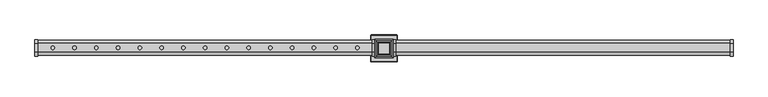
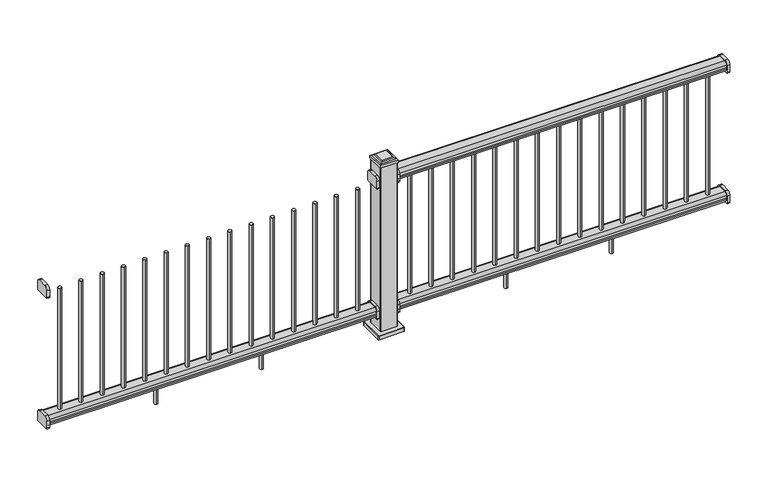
"""IFC4 building model written with IfcOpenShell, lengths in millimetres: railing geometry, NewTechWood - Brazilian Ipe."""

from ifc_helpers import new_model, si_unit, point, frame, frame_2d, origin, place, context, project, spatial, polyline, circle_curve, ellipse_curve, trimmed, segment, composite_curve, outline, extrude, faceted_brep, source, transform, mapped, element, save
from ifc_brep_helpers import plane_surface, cylinder_surface, revolved_surface, advanced_brep


def railing_b230028f(model_context):
    return source(origin(), model_context, "Body", "SolidModel", [
        extrude(outline(composite_curve([segment(polyline([(11496.7392028, 160.1), (11546.1692028, 160.1)]), True, "CONTINUOUS"), segment(trimmed(circle_curve(frame_2d((11546.1692028, 140.42)), 19.68), [point((11546.1692028, 160.1))], [point((11565.8492028, 140.42))], False, "CARTESIAN"), True, "CONTINUOUS"), segment(polyline([(11565.8492028, 140.42), (11565.8492028, 98.95)]), True, "CONTINUOUS"), segment(trimmed(circle_curve(frame_2d((11562.2992028, 98.95)), 3.55), [point((11565.8492028, 98.95))], [point((11562.2992028, 95.4))], False, "CARTESIAN"), True, "CONTINUOUS"), segment(polyline([(11562.2992028, 95.4), (11480.6092028, 95.4)]), True, "CONTINUOUS"), segment(trimmed(circle_curve(frame_2d((11480.6092028, 98.95)), 3.55), [point((11480.6092028, 95.4))], [point((11477.0592028, 98.95))], False, "CARTESIAN"), True, "CONTINUOUS"), segment(polyline([(11477.0592028, 98.95), (11477.0592028, 140.42)]), True, "CONTINUOUS"), segment(trimmed(circle_curve(frame_2d((11496.7392028, 140.42)), 19.68), [point((11477.0592028, 140.42))], [point((11496.7392028, 160.1))], False, "CARTESIAN"), True, "CONTINUOUS")], self_intersect=False)), frame((31626.7458255, 0.0, 0.0), z_axis=(1.0, 0.0, 0.0), x_axis=(0.0, 1.0, 0.0)), (0.0, 0.0, 1.0), 15.0),
        extrude(outline(composite_curve([segment(polyline([(11496.7392028, 160.1), (11546.1692028, 160.1)]), True, "CONTINUOUS"), segment(trimmed(circle_curve(frame_2d((11546.1692028, 140.42)), 19.68), [point((11546.1692028, 160.1))], [point((11565.8492028, 140.42))], False, "CARTESIAN"), True, "CONTINUOUS"), segment(polyline([(11565.8492028, 140.42), (11565.8492028, 98.95)]), True, "CONTINUOUS"), segment(trimmed(circle_curve(frame_2d((11562.2992028, 98.95)), 3.55), [point((11565.8492028, 98.95))], [point((11562.2992028, 95.4))], False, "CARTESIAN"), True, "CONTINUOUS"), segment(polyline([(11562.2992028, 95.4), (11480.6092028, 95.4)]), True, "CONTINUOUS"), segment(trimmed(circle_curve(frame_2d((11480.6092028, 98.95)), 3.55), [point((11480.6092028, 95.4))], [point((11477.0592028, 98.95))], False, "CARTESIAN"), True, "CONTINUOUS"), segment(polyline([(11477.0592028, 98.95), (11477.0592028, 140.42)]), True, "CONTINUOUS"), segment(trimmed(circle_curve(frame_2d((11496.7392028, 140.42)), 19.68), [point((11477.0592028, 140.42))], [point((11496.7392028, 160.1))], False, "CARTESIAN"), True, "CONTINUOUS")], self_intersect=False)), frame((33440.7458255, 0.0, 0.0), z_axis=(1.0, 0.0, 0.0), x_axis=(0.0, 1.0, 0.0)), (0.0, 0.0, 1.0), 15.0),
        extrude(outline(composite_curve([segment(trimmed(circle_curve(frame_2d((11546.1692028, 899.42)), 19.68), [point((11546.1692028, 919.1))], [point((11565.8492028, 899.42))], False, "CARTESIAN"), True, "CONTINUOUS"), segment(polyline([(11565.8492028, 899.42), (11565.8492028, 857.95)]), True, "CONTINUOUS"), segment(trimmed(circle_curve(frame_2d((11562.2992028, 857.95)), 3.55), [point((11565.8492028, 857.95))], [point((11562.2992028, 854.4))], False, "CARTESIAN"), True, "CONTINUOUS"), segment(polyline([(11562.2992028, 854.4), (11480.6092028, 854.4)]), True, "CONTINUOUS"), segment(trimmed(circle_curve(frame_2d((11480.6092028, 857.95)), 3.55), [point((11480.6092028, 854.4))], [point((11477.0592028, 857.95))], False, "CARTESIAN"), True, "CONTINUOUS"), segment(polyline([(11477.0592028, 857.95), (11477.0592028, 899.42)]), True, "CONTINUOUS"), segment(trimmed(circle_curve(frame_2d((11496.7392028, 899.42)), 19.68), [point((11477.0592028, 899.42))], [point((11496.7392028, 919.1))], False, "CARTESIAN"), True, "CONTINUOUS"), segment(polyline([(11496.7392028, 919.1), (11546.1692028, 919.1)]), True, "CONTINUOUS")], self_intersect=False)), frame((31626.7458255, 0.0, 0.0), z_axis=(1.0, 0.0, 0.0), x_axis=(0.0, 1.0, 0.0)), (0.0, 0.0, 1.0), 15.0),
        extrude(outline(composite_curve([segment(trimmed(circle_curve(frame_2d((11546.1692028, 899.42)), 19.68), [point((11546.1692028, 919.1))], [point((11565.8492028, 899.42))], False, "CARTESIAN"), True, "CONTINUOUS"), segment(polyline([(11565.8492028, 899.42), (11565.8492028, 857.95)]), True, "CONTINUOUS"), segment(trimmed(circle_curve(frame_2d((11562.2992028, 857.95)), 3.55), [point((11565.8492028, 857.95))], [point((11562.2992028, 854.4))], False, "CARTESIAN"), True, "CONTINUOUS"), segment(polyline([(11562.2992028, 854.4), (11480.6092028, 854.4)]), True, "CONTINUOUS"), segment(trimmed(circle_curve(frame_2d((11480.6092028, 857.95)), 3.55), [point((11480.6092028, 854.4))], [point((11477.0592028, 857.95))], False, "CARTESIAN"), True, "CONTINUOUS"), segment(polyline([(11477.0592028, 857.95), (11477.0592028, 899.42)]), True, "CONTINUOUS"), segment(trimmed(circle_curve(frame_2d((11496.7392028, 899.42)), 19.68), [point((11477.0592028, 899.42))], [point((11496.7392028, 919.1))], False, "CARTESIAN"), True, "CONTINUOUS"), segment(polyline([(11496.7392028, 919.1), (11546.1692028, 919.1)]), True, "CONTINUOUS")], self_intersect=False)), frame((33440.7458255, 0.0, 0.0), z_axis=(1.0, 0.0, 0.0), x_axis=(0.0, 1.0, 0.0)), (0.0, 0.0, 1.0), 15.0),
        advanced_brep(
        [(32251.745858, 11511.9542028, 127.5), (32251.745858, 11530.9542028, 127.5), (32242.245858, 11521.4542028, 127.5), (32251.745858, 11511.9542028, -0.0239603), (32251.745858, 11530.9542028, -0.0239603), (32242.245858, 11521.4542028, -0.0239603)],
        [
            (0, 1, circle_curve(frame((32251.745858, 11521.4542028, 127.5), z_axis=(0.0, 0.0, 1.0), x_axis=(0.0, 1.0, 0.0)), 9.5)),
            (1, 2, circle_curve(frame((32251.745858, 11521.4542028, 127.5), z_axis=(0.0, 0.0, 1.0), x_axis=(0.0, 1.0, 0.0)), 9.5)),
            (2, 0, circle_curve(frame((32251.745858, 11521.4542028, 127.5), z_axis=(0.0, 0.0, 1.0), x_axis=(0.0, 1.0, 0.0)), 9.5)),
            (0, 3),
            (3, 4, circle_curve(frame((32251.745858, 11521.4542028, -0.0239603), z_axis=(0.0, 0.0, 1.0), x_axis=(0.0, 1.0, 0.0)), 9.5)),
            (4, 1),
            (4, 5, circle_curve(frame((32251.745858, 11521.4542028, -0.0239603), z_axis=(0.0, 0.0, 1.0), x_axis=(0.0, 1.0, 0.0)), 9.5)),
            (5, 3, circle_curve(frame((32251.745858, 11521.4542028, -0.0239603), z_axis=(0.0, 0.0, 1.0), x_axis=(0.0, 1.0, 0.0)), 9.5)),
        ],
        [
            plane_surface(frame((32840.2457931, 11671.4542028, 127.5), z_axis=(0.0, 0.0, 1.0), x_axis=(0.0, -1.0, 0.0))),
            cylinder_surface(frame((32251.745858, 11521.4542028, -0.3192207), z_axis=(0.0, 0.0, 1.0), x_axis=(0.0, 1.0, 0.0)), 9.5),
            plane_surface(frame((32242.245858, 11671.4542028, -0.0239603), z_axis=(0.0, 0.0, -1.0), x_axis=(0.0, -1.0, 0.0))),
        ],
        [
            (0, [[1, 2, 3]]),
            (1, [[4, 5, 6, -1]]),
            (1, [[-4, -3, -2, -6, 7, 8]]),
            (2, [[-5, -8, -7]]),
        ],
    ),
        advanced_brep(
        [(32830.7457931, 11511.9542028, 127.5), (32840.2457931, 11521.4542028, 127.5), (32830.7457931, 11530.9542028, 127.5), (32830.7457931, 11511.9542028, -0.0102232), (32840.2457931, 11521.4542028, -0.0102232), (32830.7457931, 11530.9542028, -0.0102232)],
        [
            (0, 1, circle_curve(frame((32830.7457931, 11521.4542028, 127.5), z_axis=(0.0, 0.0, 1.0), x_axis=(0.0, 1.0, 0.0)), 9.5)),
            (1, 2, circle_curve(frame((32830.7457931, 11521.4542028, 127.5), z_axis=(0.0, 0.0, 1.0), x_axis=(0.0, 1.0, 0.0)), 9.5)),
            (2, 0, circle_curve(frame((32830.7457931, 11521.4542028, 127.5), z_axis=(0.0, 0.0, 1.0), x_axis=(0.0, 1.0, 0.0)), 9.5)),
            (0, 3),
            (3, 4, circle_curve(frame((32830.7457931, 11521.4542028, -0.0102232), z_axis=(0.0, 0.0, 1.0), x_axis=(0.0, 1.0, 0.0)), 9.5)),
            (4, 5, circle_curve(frame((32830.7457931, 11521.4542028, -0.0102232), z_axis=(0.0, 0.0, 1.0), x_axis=(0.0, 1.0, 0.0)), 9.5)),
            (5, 2),
            (5, 3, circle_curve(frame((32830.7457931, 11521.4542028, -0.0102232), z_axis=(0.0, 0.0, 1.0), x_axis=(0.0, 1.0, 0.0)), 9.5)),
        ],
        [
            plane_surface(frame((32840.2457931, 11671.4542028, 127.5), z_axis=(0.0, 0.0, 1.0), x_axis=(0.0, -1.0, 0.0))),
            cylinder_surface(frame((32830.7457931, 11521.4542028, 0.0), z_axis=(0.0, 0.0, 1.0), x_axis=(0.0, 1.0, 0.0)), 9.5),
            plane_surface(frame((32820.7457931, 11671.4542028, -0.0102232), z_axis=(0.0, 0.0, -1.0), x_axis=(0.0, -1.0, 0.0))),
        ],
        [
            (0, [[1, 2, 3]]),
            (1, [[4, 5, 6, 7, -2, -1]]),
            (1, [[-4, -3, -7, 8]]),
            (2, [[-5, -8, -6]]),
        ],
    ),
        extrude(outline(composite_curve([segment(trimmed(circle_curve(frame_2d((32190.5029684, 11521.4542028)), 9.6), [point((32190.5029684, 11531.0542028))], [point((32190.5029684, 11511.8542028))], False, "CARTESIAN"), True, "CONTINUOUS"), segment(trimmed(circle_curve(frame_2d((32190.5029684, 11521.4542028)), 9.6), [point((32190.5029684, 11511.8542028))], [point((32190.5029684, 11531.0542028))], False, "CARTESIAN"), True, "CONTINUOUS")], self_intersect=False)), frame((0.0, 0.0, 155.0), z_axis=(0.0, 0.0, 1.0), x_axis=(1.0, 0.0, 0.0)), (0.0, 0.0, 1.0), 704.1),
        extrude(outline(composite_curve([segment(trimmed(circle_curve(frame_2d((32307.4172541, 11521.4542028)), 9.6), [point((32307.4172541, 11531.0542028))], [point((32307.4172541, 11511.8542028))], False, "CARTESIAN"), True, "CONTINUOUS"), segment(trimmed(circle_curve(frame_2d((32307.4172541, 11521.4542028)), 9.6), [point((32307.4172541, 11511.8542028))], [point((32307.4172541, 11531.0542028))], False, "CARTESIAN"), True, "CONTINUOUS")], self_intersect=False)), frame((0.0, 0.0, 155.0), z_axis=(0.0, 0.0, 1.0), x_axis=(1.0, 0.0, 0.0)), (0.0, 0.0, 1.0), 704.1),
        extrude(outline(composite_curve([segment(trimmed(circle_curve(frame_2d((32424.3315398, 11521.4542028)), 9.6), [point((32424.3315398, 11531.0542028))], [point((32424.3315398, 11511.8542028))], False, "CARTESIAN"), True, "CONTINUOUS"), segment(trimmed(circle_curve(frame_2d((32424.3315398, 11521.4542028)), 9.6), [point((32424.3315398, 11511.8542028))], [point((32424.3315398, 11531.0542028))], False, "CARTESIAN"), True, "CONTINUOUS")], self_intersect=False)), frame((0.0, 0.0, 155.0), z_axis=(0.0, 0.0, 1.0), x_axis=(1.0, 0.0, 0.0)), (0.0, 0.0, 1.0), 704.1),
        extrude(outline(composite_curve([segment(trimmed(circle_curve(frame_2d((32541.2458255, 11521.4542028)), 9.6), [point((32541.2458255, 11531.0542028))], [point((32541.2458255, 11511.8542028))], False, "CARTESIAN"), True, "CONTINUOUS"), segment(trimmed(circle_curve(frame_2d((32541.2458255, 11521.4542028)), 9.6), [point((32541.2458255, 11511.8542028))], [point((32541.2458255, 11531.0542028))], False, "CARTESIAN"), True, "CONTINUOUS")], self_intersect=False)), frame((0.0, 0.0, 155.0), z_axis=(0.0, 0.0, 1.0), x_axis=(1.0, 0.0, 0.0)), (0.0, 0.0, 1.0), 704.1),
        extrude(outline(composite_curve([segment(trimmed(circle_curve(frame_2d((32658.1601112, 11521.4542028)), 9.6), [point((32658.1601112, 11531.0542028))], [point((32658.1601112, 11511.8542028))], False, "CARTESIAN"), True, "CONTINUOUS"), segment(trimmed(circle_curve(frame_2d((32658.1601112, 11521.4542028)), 9.6), [point((32658.1601112, 11511.8542028))], [point((32658.1601112, 11531.0542028))], False, "CARTESIAN"), True, "CONTINUOUS")], self_intersect=False)), frame((0.0, 0.0, 155.0), z_axis=(0.0, 0.0, 1.0), x_axis=(1.0, 0.0, 0.0)), (0.0, 0.0, 1.0), 704.1),
        extrude(outline(composite_curve([segment(trimmed(circle_curve(frame_2d((32775.0743969, 11521.4542028)), 9.6), [point((32775.0743969, 11531.0542028))], [point((32775.0743969, 11511.8542028))], False, "CARTESIAN"), True, "CONTINUOUS"), segment(trimmed(circle_curve(frame_2d((32775.0743969, 11521.4542028)), 9.6), [point((32775.0743969, 11511.8542028))], [point((32775.0743969, 11531.0542028))], False, "CARTESIAN"), True, "CONTINUOUS")], self_intersect=False)), frame((0.0, 0.0, 155.0), z_axis=(0.0, 0.0, 1.0), x_axis=(1.0, 0.0, 0.0)), (0.0, 0.0, 1.0), 704.1),
        extrude(outline(composite_curve([segment(trimmed(circle_curve(frame_2d((32891.9886827, 11521.4542028)), 9.6), [point((32891.9886827, 11531.0542028))], [point((32891.9886827, 11511.8542028))], False, "CARTESIAN"), True, "CONTINUOUS"), segment(trimmed(circle_curve(frame_2d((32891.9886827, 11521.4542028)), 9.6), [point((32891.9886827, 11511.8542028))], [point((32891.9886827, 11531.0542028))], False, "CARTESIAN"), True, "CONTINUOUS")], self_intersect=False)), frame((0.0, 0.0, 155.0), z_axis=(0.0, 0.0, 1.0), x_axis=(1.0, 0.0, 0.0)), (0.0, 0.0, 1.0), 704.1),
        extrude(outline(composite_curve([segment(trimmed(circle_curve(frame_2d((31722.8458255, 11521.4542028)), 9.6), [point((31722.8458255, 11531.0542028))], [point((31722.8458255, 11511.8542028))], False, "CARTESIAN"), True, "CONTINUOUS"), segment(trimmed(circle_curve(frame_2d((31722.8458255, 11521.4542028)), 9.6), [point((31722.8458255, 11511.8542028))], [point((31722.8458255, 11531.0542028))], False, "CARTESIAN"), True, "CONTINUOUS")], self_intersect=False)), frame((0.0, 0.0, 155.0), z_axis=(0.0, 0.0, 1.0), x_axis=(1.0, 0.0, 0.0)), (0.0, 0.0, 1.0), 704.1),
        extrude(outline(composite_curve([segment(trimmed(circle_curve(frame_2d((31839.7601112, 11521.4542028)), 9.6), [point((31839.7601112, 11531.0542028))], [point((31839.7601112, 11511.8542028))], False, "CARTESIAN"), True, "CONTINUOUS"), segment(trimmed(circle_curve(frame_2d((31839.7601112, 11521.4542028)), 9.6), [point((31839.7601112, 11511.8542028))], [point((31839.7601112, 11531.0542028))], False, "CARTESIAN"), True, "CONTINUOUS")], self_intersect=False)), frame((0.0, 0.0, 155.0), z_axis=(0.0, 0.0, 1.0), x_axis=(1.0, 0.0, 0.0)), (0.0, 0.0, 1.0), 704.1),
        extrude(outline(composite_curve([segment(trimmed(circle_curve(frame_2d((31956.6743969, 11521.4542028)), 9.6), [point((31956.6743969, 11531.0542028))], [point((31956.6743969, 11511.8542028))], False, "CARTESIAN"), True, "CONTINUOUS"), segment(trimmed(circle_curve(frame_2d((31956.6743969, 11521.4542028)), 9.6), [point((31956.6743969, 11511.8542028))], [point((31956.6743969, 11531.0542028))], False, "CARTESIAN"), True, "CONTINUOUS")], self_intersect=False)), frame((0.0, 0.0, 155.0), z_axis=(0.0, 0.0, 1.0), x_axis=(1.0, 0.0, 0.0)), (0.0, 0.0, 1.0), 704.1),
        extrude(outline(composite_curve([segment(trimmed(circle_curve(frame_2d((32073.5886827, 11521.4542028)), 9.6), [point((32073.5886827, 11531.0542028))], [point((32073.5886827, 11511.8542028))], False, "CARTESIAN"), True, "CONTINUOUS"), segment(trimmed(circle_curve(frame_2d((32073.5886827, 11521.4542028)), 9.6), [point((32073.5886827, 11511.8542028))], [point((32073.5886827, 11531.0542028))], False, "CARTESIAN"), True, "CONTINUOUS")], self_intersect=False)), frame((0.0, 0.0, 155.0), z_axis=(0.0, 0.0, 1.0), x_axis=(1.0, 0.0, 0.0)), (0.0, 0.0, 1.0), 704.1),
        extrude(outline(composite_curve([segment(trimmed(circle_curve(frame_2d((33008.9029684, 11521.4542028)), 9.6), [point((33008.9029684, 11531.0542028))], [point((33008.9029684, 11511.8542028))], False, "CARTESIAN"), True, "CONTINUOUS"), segment(trimmed(circle_curve(frame_2d((33008.9029684, 11521.4542028)), 9.6), [point((33008.9029684, 11511.8542028))], [point((33008.9029684, 11531.0542028))], False, "CARTESIAN"), True, "CONTINUOUS")], self_intersect=False)), frame((0.0, 0.0, 155.0), z_axis=(0.0, 0.0, 1.0), x_axis=(1.0, 0.0, 0.0)), (0.0, 0.0, 1.0), 704.1),
        extrude(outline(composite_curve([segment(trimmed(circle_curve(frame_2d((33125.8172541, 11521.4542028)), 9.6), [point((33125.8172541, 11531.0542028))], [point((33125.8172541, 11511.8542028))], False, "CARTESIAN"), True, "CONTINUOUS"), segment(trimmed(circle_curve(frame_2d((33125.8172541, 11521.4542028)), 9.6), [point((33125.8172541, 11511.8542028))], [point((33125.8172541, 11531.0542028))], False, "CARTESIAN"), True, "CONTINUOUS")], self_intersect=False)), frame((0.0, 0.0, 155.0), z_axis=(0.0, 0.0, 1.0), x_axis=(1.0, 0.0, 0.0)), (0.0, 0.0, 1.0), 704.1),
        extrude(outline(composite_curve([segment(trimmed(circle_curve(frame_2d((33242.7315398, 11521.4542028)), 9.6), [point((33242.7315398, 11531.0542028))], [point((33242.7315398, 11511.8542028))], False, "CARTESIAN"), True, "CONTINUOUS"), segment(trimmed(circle_curve(frame_2d((33242.7315398, 11521.4542028)), 9.6), [point((33242.7315398, 11511.8542028))], [point((33242.7315398, 11531.0542028))], False, "CARTESIAN"), True, "CONTINUOUS")], self_intersect=False)), frame((0.0, 0.0, 155.0), z_axis=(0.0, 0.0, 1.0), x_axis=(1.0, 0.0, 0.0)), (0.0, 0.0, 1.0), 704.1),
        extrude(outline(composite_curve([segment(trimmed(circle_curve(frame_2d((33359.6458255, 11521.4542028)), 9.6), [point((33359.6458255, 11531.0542028))], [point((33359.6458255, 11511.8542028))], False, "CARTESIAN"), True, "CONTINUOUS"), segment(trimmed(circle_curve(frame_2d((33359.6458255, 11521.4542028)), 9.6), [point((33359.6458255, 11511.8542028))], [point((33359.6458255, 11531.0542028))], False, "CARTESIAN"), True, "CONTINUOUS")], self_intersect=False)), frame((0.0, 0.0, 155.0), z_axis=(0.0, 0.0, 1.0), x_axis=(1.0, 0.0, 0.0)), (0.0, 0.0, 1.0), 704.1),
        extrude(outline(composite_curve([segment(polyline([(11543.636591, 100.0161325), (11499.2718146, 100.0161325)]), True, "CONTINUOUS"), segment(trimmed(circle_curve(frame_2d((11499.2718146, 116.7552917)), 16.7391591), [point((11499.2718146, 100.0161325))], [point((11482.5326554, 116.7552917))], False, "CARTESIAN"), True, "CONTINUOUS"), segment(polyline([(11482.5326554, 116.7552917), (11482.5326554, 126.3278473)]), True, "CONTINUOUS"), segment(trimmed(circle_curve(frame_2d((11469.6196989, 132.6660673)), 14.3846265), [point((11482.5326554, 126.3278473))], [point((11482.0441367, 139.9152621))], True, "CARTESIAN"), True, "CONTINUOUS"), segment(trimmed(circle_curve(frame_2d((11497.612742, 139.9152621)), 15.5686053), [point((11482.0441367, 139.9152621))], [point((11497.612742, 155.4838675))], False, "CARTESIAN"), True, "CONTINUOUS"), segment(polyline([(11497.612742, 155.4838675), (11545.2956636, 155.4838675)]), True, "CONTINUOUS"), segment(trimmed(circle_curve(frame_2d((11545.2956636, 139.9152621)), 15.5686053), [point((11545.2956636, 155.4838675))], [point((11560.8642689, 139.9152621))], False, "CARTESIAN"), True, "CONTINUOUS"), segment(trimmed(circle_curve(frame_2d((11573.2887067, 132.6660673)), 14.3846265), [point((11560.8642689, 139.9152621))], [point((11560.3757501, 126.3278473))], True, "CARTESIAN"), True, "CONTINUOUS"), segment(polyline([(11560.3757501, 126.3278473), (11560.3757501, 116.7552917)]), True, "CONTINUOUS"), segment(trimmed(circle_curve(frame_2d((11543.636591, 116.7552917)), 16.7391591), [point((11560.3757501, 116.7552917))], [point((11543.636591, 100.0161325))], False, "CARTESIAN"), True, "CONTINUOUS")], self_intersect=False)), frame((31641.7458255, 0.0, 0.0), z_axis=(1.0, 0.0, 0.0), x_axis=(0.0, 1.0, 0.0)), (0.0, 0.0, 1.0), 1799.0),
        extrude(outline(composite_curve([segment(polyline([(11543.636591, 859.0161325), (11499.2718146, 859.0161325)]), True, "CONTINUOUS"), segment(trimmed(circle_curve(frame_2d((11499.2718146, 875.7552917)), 16.7391591), [point((11499.2718146, 859.0161325))], [point((11482.5326554, 875.7552917))], False, "CARTESIAN"), True, "CONTINUOUS"), segment(polyline([(11482.5326554, 875.7552917), (11482.5326554, 885.3278473)]), True, "CONTINUOUS"), segment(trimmed(circle_curve(frame_2d((11469.6196989, 891.6660673)), 14.3846265), [point((11482.5326554, 885.3278473))], [point((11482.0441367, 898.9152621))], True, "CARTESIAN"), True, "CONTINUOUS"), segment(trimmed(circle_curve(frame_2d((11497.612742, 898.9152621)), 15.5686053), [point((11482.0441367, 898.9152621))], [point((11497.612742, 914.4838675))], False, "CARTESIAN"), True, "CONTINUOUS"), segment(polyline([(11497.612742, 914.4838675), (11545.2956636, 914.4838675)]), True, "CONTINUOUS"), segment(trimmed(circle_curve(frame_2d((11545.2956636, 898.9152621)), 15.5686053), [point((11545.2956636, 914.4838675))], [point((11560.8642689, 898.9152621))], False, "CARTESIAN"), True, "CONTINUOUS"), segment(trimmed(circle_curve(frame_2d((11573.2887067, 891.6660673)), 14.3846265), [point((11560.8642689, 898.9152621))], [point((11560.3757501, 885.3278473))], True, "CARTESIAN"), True, "CONTINUOUS"), segment(polyline([(11560.3757501, 885.3278473), (11560.3757501, 875.7552917)]), True, "CONTINUOUS"), segment(trimmed(circle_curve(frame_2d((11543.636591, 875.7552917)), 16.7391591), [point((11560.3757501, 875.7552917))], [point((11543.636591, 859.0161325))], False, "CARTESIAN"), True, "CONTINUOUS")], self_intersect=False)), frame((31641.7458255, 0.0, 0.0), z_axis=(1.0, 0.0, 0.0), x_axis=(0.0, 1.0, 0.0)), (0.0, 0.0, 1.0), 1799.0),
        advanced_brep(
        [(31646.8584818, 11447.5944784, 22.5), (31650.0180491, 11450.7540458, 22.5), (31650.0180491, 11585.4340458, 22.5), (31646.8584818, 11588.5936132, 22.5), (31512.1784818, 11588.5936132, 22.5), (31509.0189144, 11585.4340458, 22.5), (31509.0189144, 11450.7540458, 22.5), (31512.1784818, 11447.5944784, 22.5), (31507.0184818, 11585.4340458, 0.0), (31512.1784818, 11590.5940458, 0.0), (31646.8584818, 11590.5940458, 0.0), (31652.0184818, 11585.4340458, 0.0), (31652.0184818, 11450.7540458, 0.0), (31646.8584818, 11445.5940458, 0.0), (31512.1784818, 11445.5940458, 0.0), (31507.0184818, 11450.7540458, 0.0), (31507.0184818, 11450.7540458, 20.4995674), (31507.0184818, 11585.4340458, 20.4995674), (31512.1784818, 11445.5940458, 20.499569), (31646.8584818, 11445.5940458, 20.499569), (31652.0184818, 11450.7540458, 20.4995691), (31652.0184818, 11585.4340458, 20.4995674), (31646.8584818, 11590.5940458, 20.4995692), (31512.1784818, 11590.5940458, 20.4995674)],
        [
            (0, 1, circle_curve(frame((31646.8584818, 11450.7540458, 22.5), z_axis=(0.0, 0.0, 1.0), x_axis=(0.0, -1.0, 0.0)), 3.1595674)),
            (1, 2),
            (2, 3, circle_curve(frame((31646.8584818, 11585.4340458, 22.5), z_axis=(0.0, 0.0, 1.0), x_axis=(1.0, 0.0, 0.0)), 3.1595674)),
            (3, 4),
            (4, 5, circle_curve(frame((31512.1784818, 11585.4340458, 22.5), z_axis=(0.0, 0.0, 1.0), x_axis=(0.0, 1.0, 0.0)), 3.1595674)),
            (5, 6),
            (6, 7, circle_curve(frame((31512.1784818, 11450.7540458, 22.5), z_axis=(0.0, 0.0, 1.0), x_axis=(-1.0, 0.0, 0.0)), 3.1595674)),
            (7, 0),
            (8, 9, circle_curve(frame((31512.1784818, 11585.4340458, 0.0), z_axis=(0.0, 0.0, -1.0), x_axis=(0.0, 1.0, 0.0)), 5.16)),
            (9, 10),
            (10, 11, circle_curve(frame((31646.8584818, 11585.4340458, 0.0), z_axis=(0.0, 0.0, -1.0), x_axis=(0.0, 1.0, 0.0)), 5.16)),
            (11, 12),
            (12, 13, circle_curve(frame((31646.8584818, 11450.7540458, 0.0), z_axis=(0.0, 0.0, -1.0), x_axis=(0.0, 1.0, 0.0)), 5.16)),
            (13, 14),
            (14, 15, circle_curve(frame((31512.1784818, 11450.7540458, 0.0), z_axis=(0.0, 0.0, -1.0), x_axis=(0.0, 1.0, 0.0)), 5.16)),
            (15, 8),
            (15, 16),
            (16, 17),
            (17, 8),
            (14, 18),
            (18, 16, circle_curve(frame((31512.1784818, 11450.7540458, 20.4995674), z_axis=(0.0, 0.0, -1.0), x_axis=(0.0, 1.0, 0.0)), 5.16)),
            (13, 19),
            (19, 18),
            (12, 20),
            (20, 19, circle_curve(frame((31646.8584818, 11450.7540458, 20.4995674), z_axis=(0.0, 0.0, -1.0), x_axis=(0.0, 1.0, 0.0)), 5.16)),
            (11, 21),
            (21, 20),
            (10, 22),
            (22, 21, circle_curve(frame((31646.8584818, 11585.4340458, 20.4995674), z_axis=(0.0, 0.0, -1.0), x_axis=(0.0, 1.0, 0.0)), 5.16)),
            (9, 23),
            (23, 22),
            (17, 23, circle_curve(frame((31512.1784818, 11585.4340458, 20.4995674), z_axis=(0.0, 0.0, -1.0), x_axis=(0.0, 1.0, 0.0)), 5.16)),
            (20, 1, circle_curve(frame((31650.0180491, 11450.7540458, 20.4995674), z_axis=(0.0, -1.0, 0.0), x_axis=(-1.0, 0.0, 0.0)), 2.0004326)),
            (0, 19, circle_curve(frame((31646.8584818, 11447.5944784, 20.4995674), z_axis=(1.0, 0.0, 0.0), x_axis=(0.0, 1.0, 0.0)), 2.0004326)),
            (21, 2, circle_curve(frame((31650.0180491, 11585.4340458, 20.4995674), z_axis=(0.0, -1.0, 0.0), x_axis=(-1.0, 0.0, 0.0)), 2.0004326)),
            (22, 3, circle_curve(frame((31646.8584818, 11588.5936132, 20.4995674), z_axis=(1.0, 0.0, 0.0), x_axis=(0.0, -1.0, 0.0)), 2.0004326)),
            (23, 4, circle_curve(frame((31512.1784818, 11588.5936132, 20.4995674), z_axis=(1.0, 0.0, 0.0), x_axis=(0.0, -1.0, 0.0)), 2.0004326)),
            (17, 5, circle_curve(frame((31509.0189144, 11585.4340458, 20.4995674), z_axis=(0.0, 1.0, 0.0), x_axis=(1.0, 0.0, 0.0)), 2.0004326)),
            (16, 6, circle_curve(frame((31509.0189144, 11450.7540458, 20.4995674), z_axis=(0.0, 1.0, 0.0), x_axis=(1.0, 0.0, 0.0)), 2.0004326)),
            (18, 7, circle_curve(frame((31512.1784818, 11447.5944784, 20.4995674), z_axis=(-1.0, 0.0, 0.0), x_axis=(0.0, 1.0, 0.0)), 2.0004326)),
        ],
        [
            plane_surface(frame((31507.0184818, 11558.658052, 22.5), z_axis=(0.0, 0.0, 1.0), x_axis=(0.0, -1.0, 0.0))),
            plane_surface(frame((31507.0184818, 11558.658052, 0.0), z_axis=(0.0, 0.0, -1.0), x_axis=(0.0, 1.0, 0.0))),
            plane_surface(frame((31507.0184818, 11585.4340458, 22.5), z_axis=(-1.0, 0.0, 0.0), x_axis=(0.0, 0.0, -1.0))),
            cylinder_surface(frame((31512.1784818, 11450.7540458, 0.0), z_axis=(0.0, 0.0, 1.0), x_axis=(0.0, 1.0, 0.0)), 5.16),
            plane_surface(frame((31512.1784818, 11445.5940458, 22.5), z_axis=(0.0, -1.0, 0.0), x_axis=(0.0, 0.0, -1.0))),
            cylinder_surface(frame((31646.8584818, 11450.7540458, 0.0), z_axis=(0.0, 0.0, 1.0), x_axis=(0.0, 1.0, 0.0)), 5.16),
            plane_surface(frame((31652.0184818, 11450.7540458, 22.5), z_axis=(1.0, 0.0, 0.0), x_axis=(0.0, 0.0, -1.0))),
            cylinder_surface(frame((31646.8584818, 11585.4340458, 0.0), z_axis=(0.0, 0.0, 1.0), x_axis=(0.0, 1.0, 0.0)), 5.16),
            plane_surface(frame((31646.8584818, 11590.5940458, 22.5), z_axis=(0.0, 1.0, 0.0), x_axis=(0.0, 0.0, -1.0))),
            cylinder_surface(frame((31512.1784818, 11585.4340458, 0.0), z_axis=(0.0, 0.0, 1.0), x_axis=(0.0, 1.0, 0.0)), 5.16),
            revolved_surface(trimmed(ellipse_curve(frame((31646.8584818, 11447.5944784, 20.4995674), z_axis=(-1.0, 0.0, 0.0), x_axis=(0.0, 1.0, 0.0)), 2.0004326, 2.0004326), [point((31646.8584818, 11445.5940458, 20.4995674))], [point((31646.8584818, 11447.5944784, 22.5))], True, "CARTESIAN"), (31646.8584818, 11450.7540458, 22.5), (0.0, 0.0, 1.0)),
            cylinder_surface(frame((31650.0180491, 11450.7540458, 20.4995674), z_axis=(0.0, 1.0, 0.0), x_axis=(-1.0, 0.0, 0.0)), 2.0004326),
            revolved_surface(trimmed(ellipse_curve(frame((31650.0180491, 11585.4340458, 20.4995674), z_axis=(0.0, -1.0, 0.0), x_axis=(-1.0, 0.0, 0.0)), 2.0004326, 2.0004326), [point((31652.0184818, 11585.4340458, 20.4995674))], [point((31650.0180491, 11585.4340458, 22.5))], True, "CARTESIAN"), (31646.8584818, 11585.4340458, 22.5), (0.0, 0.0, 1.0)),
            cylinder_surface(frame((31646.8584818, 11588.5936132, 20.4995674), z_axis=(-1.0, 0.0, 0.0), x_axis=(0.0, -1.0, 0.0)), 2.0004326),
            revolved_surface(trimmed(ellipse_curve(frame((31512.1784818, 11588.5936132, 20.4995674), z_axis=(1.0, 0.0, 0.0), x_axis=(0.0, -1.0, 0.0)), 2.0004326, 2.0004326), [point((31512.1784818, 11590.5940458, 20.4995674))], [point((31512.1784818, 11588.5936132, 22.5))], True, "CARTESIAN"), (31512.1784818, 11585.4340458, 22.5), (0.0, 0.0, 1.0)),
            cylinder_surface(frame((31509.0189144, 11585.4340458, 20.4995674), z_axis=(0.0, -1.0, 0.0), x_axis=(1.0, 0.0, 0.0)), 2.0004326),
            revolved_surface(trimmed(ellipse_curve(frame((31509.0189144, 11450.7540458, 20.4995674), z_axis=(0.0, 1.0, 0.0), x_axis=(1.0, 0.0, 0.0)), 2.0004326, 2.0004326), [point((31507.0184818, 11450.7540458, 20.4995674))], [point((31509.0189144, 11450.7540458, 22.5))], True, "CARTESIAN"), (31512.1784818, 11450.7540458, 22.5), (0.0, 0.0, 1.0)),
            cylinder_surface(frame((31512.1784818, 11447.5944784, 20.4995674), z_axis=(1.0, 0.0, 0.0), x_axis=(0.0, 1.0, 0.0)), 2.0004326),
        ],
        [
            (0, [[1, 2, 3, 4, 5, 6, 7, 8]]),
            (1, [[9, 10, 11, 12, 13, 14, 15, 16]]),
            (2, [[-16, 17, 18, 19]]),
            (3, [[-15, 20, 21, -17]]),
            (4, [[-14, 22, 23, -20]]),
            (5, [[-13, 24, 25, -22]]),
            (6, [[-12, 26, 27, -24]]),
            (7, [[-11, 28, 29, -26]]),
            (8, [[-10, 30, 31, -28]]),
            (9, [[-9, -19, 32, -30]]),
            (10, [[33, -1, 34, -25]]),
            (11, [[-33, -27, 35, -2]]),
            (12, [[-35, -29, 36, -3]]),
            (13, [[-36, -31, 37, -4]]),
            (14, [[-37, -32, 38, -5]]),
            (15, [[-38, -18, 39, -6]]),
            (16, [[-39, -21, 40, -7]]),
            (17, [[-34, -8, -40, -23]]),
        ],
    ),
        faceted_brep([(31628.5684818, 11469.0440458, 990.769699), (31628.5684818, 11469.0440458, 976.139699), (31628.5684818, 11567.1440458, 976.139699), (31628.5684818, 11567.1440458, 990.769699), (31624.5358057, 11473.0767219, 996.0825536), (31624.5358057, 11563.1113697, 996.0825536), (31615.310698, 11482.3018295, 1000.5958992), (31615.310698, 11553.886262, 1000.5958992), (31610.8139306, 11486.7985969, 1004.4), (31610.8139306, 11549.3894946, 1004.4), (31530.4684818, 11567.1440458, 976.139699), (31530.4684818, 11567.1440458, 990.769699), (31534.5011579, 11563.1113697, 996.0825536), (31543.7262655, 11553.886262, 1000.5958992), (31548.2230329, 11549.3894946, 1004.4), (31530.4684818, 11469.0440458, 976.139699), (31530.4684818, 11469.0440458, 990.769699), (31534.5011579, 11473.0767219, 996.0825536), (31543.7262655, 11482.3018295, 1000.5958992), (31548.2230329, 11486.7985969, 1004.4)], [[[0, 1, 2, 3]], [[4, 0, 3, 5]], [[6, 4, 5, 7]], [[8, 6, 7, 9]], [[3, 2, 10, 11]], [[5, 3, 11, 12]], [[7, 5, 12, 13]], [[9, 7, 13, 14]], [[11, 10, 15, 16]], [[12, 11, 16, 17]], [[13, 12, 17, 18]], [[14, 13, 18, 19]], [[16, 15, 1, 0]], [[17, 16, 0, 4]], [[18, 17, 4, 6]], [[19, 18, 6, 8]], [[9, 14, 19, 8]], [[1, 15, 10, 2]]]),
        extrude(outline(composite_curve([segment(trimmed(circle_curve(frame_2d((31535.9284818, 11474.5040458)), 3.61), [point((31535.9284818, 11470.8940458))], [point((31532.3184818, 11474.5040458))], False, "CARTESIAN"), True, "CONTINUOUS"), segment(polyline([(31532.3184818, 11474.5040458), (31532.3184818, 11561.6840458)]), True, "CONTINUOUS"), segment(trimmed(circle_curve(frame_2d((31535.9284818, 11561.6840458)), 3.61), [point((31532.3184818, 11561.6840458))], [point((31535.9284818, 11565.2940458))], False, "CARTESIAN"), True, "CONTINUOUS"), segment(polyline([(31535.9284818, 11565.2940458), (31623.1084818, 11565.2940458)]), True, "CONTINUOUS"), segment(trimmed(circle_curve(frame_2d((31623.1084818, 11561.6840458)), 3.61), [point((31623.1084818, 11565.2940458))], [point((31626.7184818, 11561.6840458))], False, "CARTESIAN"), True, "CONTINUOUS"), segment(polyline([(31626.7184818, 11561.6840458), (31626.7184818, 11474.5040458)]), True, "CONTINUOUS"), segment(trimmed(circle_curve(frame_2d((31623.1084818, 11474.5040458)), 3.61), [point((31626.7184818, 11474.5040458))], [point((31623.1084818, 11470.8940458))], False, "CARTESIAN"), True, "CONTINUOUS"), segment(polyline([(31623.1084818, 11470.8940458), (31535.9284818, 11470.8940458)]), True, "CONTINUOUS")], self_intersect=False)), frame((0.0, 0.0, 22.5), z_axis=(0.0, 0.0, 1.0), x_axis=(1.0, 0.0, 0.0)), (0.0, 0.0, 1.0), 953.639699),
        extrude(outline(composite_curve([segment(polyline([(11496.7392028, 160.1), (11546.1692028, 160.1)]), True, "CONTINUOUS"), segment(trimmed(circle_curve(frame_2d((11546.1692028, 140.42)), 19.68), [point((11546.1692028, 160.1))], [point((11565.8492028, 140.42))], False, "CARTESIAN"), True, "CONTINUOUS"), segment(polyline([(11565.8492028, 140.42), (11565.8492028, 98.95)]), True, "CONTINUOUS"), segment(trimmed(circle_curve(frame_2d((11562.2992028, 98.95)), 3.55), [point((11565.8492028, 98.95))], [point((11562.2992028, 95.4))], False, "CARTESIAN"), True, "CONTINUOUS"), segment(polyline([(11562.2992028, 95.4), (11480.6092028, 95.4)]), True, "CONTINUOUS"), segment(trimmed(circle_curve(frame_2d((11480.6092028, 98.95)), 3.55), [point((11480.6092028, 95.4))], [point((11477.0592028, 98.95))], False, "CARTESIAN"), True, "CONTINUOUS"), segment(polyline([(11477.0592028, 98.95), (11477.0592028, 140.42)]), True, "CONTINUOUS"), segment(trimmed(circle_curve(frame_2d((11496.7392028, 140.42)), 19.68), [point((11477.0592028, 140.42))], [point((11496.7392028, 160.1))], False, "CARTESIAN"), True, "CONTINUOUS")], self_intersect=False)), frame((29703.291138, 0.0, 0.0), z_axis=(1.0, 0.0, 0.0), x_axis=(0.0, 1.0, 0.0)), (0.0, 0.0, 1.0), 15.0),
        extrude(outline(composite_curve([segment(polyline([(11496.7392028, 160.1), (11546.1692028, 160.1)]), True, "CONTINUOUS"), segment(trimmed(circle_curve(frame_2d((11546.1692028, 140.42)), 19.68), [point((11546.1692028, 160.1))], [point((11565.8492028, 140.42))], False, "CARTESIAN"), True, "CONTINUOUS"), segment(polyline([(11565.8492028, 140.42), (11565.8492028, 98.95)]), True, "CONTINUOUS"), segment(trimmed(circle_curve(frame_2d((11562.2992028, 98.95)), 3.55), [point((11565.8492028, 98.95))], [point((11562.2992028, 95.4))], False, "CARTESIAN"), True, "CONTINUOUS"), segment(polyline([(11562.2992028, 95.4), (11480.6092028, 95.4)]), True, "CONTINUOUS"), segment(trimmed(circle_curve(frame_2d((11480.6092028, 98.95)), 3.55), [point((11480.6092028, 95.4))], [point((11477.0592028, 98.95))], False, "CARTESIAN"), True, "CONTINUOUS"), segment(polyline([(11477.0592028, 98.95), (11477.0592028, 140.42)]), True, "CONTINUOUS"), segment(trimmed(circle_curve(frame_2d((11496.7392028, 140.42)), 19.68), [point((11477.0592028, 140.42))], [point((11496.7392028, 160.1))], False, "CARTESIAN"), True, "CONTINUOUS")], self_intersect=False)), frame((31517.291138, 0.0, 0.0), z_axis=(1.0, 0.0, 0.0), x_axis=(0.0, 1.0, 0.0)), (0.0, 0.0, 1.0), 15.0),
        extrude(outline(composite_curve([segment(trimmed(circle_curve(frame_2d((11546.1692028, 899.42)), 19.68), [point((11546.1692028, 919.1))], [point((11565.8492028, 899.42))], False, "CARTESIAN"), True, "CONTINUOUS"), segment(polyline([(11565.8492028, 899.42), (11565.8492028, 857.95)]), True, "CONTINUOUS"), segment(trimmed(circle_curve(frame_2d((11562.2992028, 857.95)), 3.55), [point((11565.8492028, 857.95))], [point((11562.2992028, 854.4))], False, "CARTESIAN"), True, "CONTINUOUS"), segment(polyline([(11562.2992028, 854.4), (11480.6092028, 854.4)]), True, "CONTINUOUS"), segment(trimmed(circle_curve(frame_2d((11480.6092028, 857.95)), 3.55), [point((11480.6092028, 854.4))], [point((11477.0592028, 857.95))], False, "CARTESIAN"), True, "CONTINUOUS"), segment(polyline([(11477.0592028, 857.95), (11477.0592028, 899.42)]), True, "CONTINUOUS"), segment(trimmed(circle_curve(frame_2d((11496.7392028, 899.42)), 19.68), [point((11477.0592028, 899.42))], [point((11496.7392028, 919.1))], False, "CARTESIAN"), True, "CONTINUOUS"), segment(polyline([(11496.7392028, 919.1), (11546.1692028, 919.1)]), True, "CONTINUOUS")], self_intersect=False)), frame((29703.291138, 0.0, 0.0), z_axis=(1.0, 0.0, 0.0), x_axis=(0.0, 1.0, 0.0)), (0.0, 0.0, 1.0), 15.0),
        extrude(outline(composite_curve([segment(trimmed(circle_curve(frame_2d((11546.1692028, 899.42)), 19.68), [point((11546.1692028, 919.1))], [point((11565.8492028, 899.42))], False, "CARTESIAN"), True, "CONTINUOUS"), segment(polyline([(11565.8492028, 899.42), (11565.8492028, 857.95)]), True, "CONTINUOUS"), segment(trimmed(circle_curve(frame_2d((11562.2992028, 857.95)), 3.55), [point((11565.8492028, 857.95))], [point((11562.2992028, 854.4))], False, "CARTESIAN"), True, "CONTINUOUS"), segment(polyline([(11562.2992028, 854.4), (11480.6092028, 854.4)]), True, "CONTINUOUS"), segment(trimmed(circle_curve(frame_2d((11480.6092028, 857.95)), 3.55), [point((11480.6092028, 854.4))], [point((11477.0592028, 857.95))], False, "CARTESIAN"), True, "CONTINUOUS"), segment(polyline([(11477.0592028, 857.95), (11477.0592028, 899.42)]), True, "CONTINUOUS"), segment(trimmed(circle_curve(frame_2d((11496.7392028, 899.42)), 19.68), [point((11477.0592028, 899.42))], [point((11496.7392028, 919.1))], False, "CARTESIAN"), True, "CONTINUOUS"), segment(polyline([(11496.7392028, 919.1), (11546.1692028, 919.1)]), True, "CONTINUOUS")], self_intersect=False)), frame((31517.291138, 0.0, 0.0), z_axis=(1.0, 0.0, 0.0), x_axis=(0.0, 1.0, 0.0)), (0.0, 0.0, 1.0), 15.0),
        advanced_brep(
        [(30328.2911705, 11511.9542028, 127.5), (30328.2911705, 11530.9542028, 127.5), (30318.7911705, 11521.4542028, 127.5), (30328.2911705, 11511.9542028, -0.0239603), (30328.2911705, 11530.9542028, -0.0239603), (30318.7911705, 11521.4542028, -0.0239603)],
        [
            (0, 1, circle_curve(frame((30328.2911705, 11521.4542028, 127.5), z_axis=(0.0, 0.0, 1.0), x_axis=(0.0, 1.0, 0.0)), 9.5)),
            (1, 2, circle_curve(frame((30328.2911705, 11521.4542028, 127.5), z_axis=(0.0, 0.0, 1.0), x_axis=(0.0, 1.0, 0.0)), 9.5)),
            (2, 0, circle_curve(frame((30328.2911705, 11521.4542028, 127.5), z_axis=(0.0, 0.0, 1.0), x_axis=(0.0, 1.0, 0.0)), 9.5)),
            (0, 3),
            (3, 4, circle_curve(frame((30328.2911705, 11521.4542028, -0.0239603), z_axis=(0.0, 0.0, 1.0), x_axis=(0.0, 1.0, 0.0)), 9.5)),
            (4, 1),
            (4, 5, circle_curve(frame((30328.2911705, 11521.4542028, -0.0239603), z_axis=(0.0, 0.0, 1.0), x_axis=(0.0, 1.0, 0.0)), 9.5)),
            (5, 3, circle_curve(frame((30328.2911705, 11521.4542028, -0.0239603), z_axis=(0.0, 0.0, 1.0), x_axis=(0.0, 1.0, 0.0)), 9.5)),
        ],
        [
            plane_surface(frame((30916.7911056, 11671.4542028, 127.5), z_axis=(0.0, 0.0, 1.0), x_axis=(0.0, -1.0, 0.0))),
            cylinder_surface(frame((30328.2911705, 11521.4542028, -0.3192207), z_axis=(0.0, 0.0, 1.0), x_axis=(0.0, 1.0, 0.0)), 9.5),
            plane_surface(frame((30318.7911705, 11671.4542028, -0.0239603), z_axis=(0.0, 0.0, -1.0), x_axis=(0.0, -1.0, 0.0))),
        ],
        [
            (0, [[1, 2, 3]]),
            (1, [[4, 5, 6, -1]]),
            (1, [[-4, -3, -2, -6, 7, 8]]),
            (2, [[-5, -8, -7]]),
        ],
    ),
        advanced_brep(
        [(30907.2911056, 11511.9542028, 127.5), (30916.7911056, 11521.4542028, 127.5), (30907.2911056, 11530.9542028, 127.5), (30907.2911056, 11511.9542028, -0.0102232), (30916.7911056, 11521.4542028, -0.0102232), (30907.2911056, 11530.9542028, -0.0102232)],
        [
            (0, 1, circle_curve(frame((30907.2911056, 11521.4542028, 127.5), z_axis=(0.0, 0.0, 1.0), x_axis=(0.0, 1.0, 0.0)), 9.5)),
            (1, 2, circle_curve(frame((30907.2911056, 11521.4542028, 127.5), z_axis=(0.0, 0.0, 1.0), x_axis=(0.0, 1.0, 0.0)), 9.5)),
            (2, 0, circle_curve(frame((30907.2911056, 11521.4542028, 127.5), z_axis=(0.0, 0.0, 1.0), x_axis=(0.0, 1.0, 0.0)), 9.5)),
            (0, 3),
            (3, 4, circle_curve(frame((30907.2911056, 11521.4542028, -0.0102232), z_axis=(0.0, 0.0, 1.0), x_axis=(0.0, 1.0, 0.0)), 9.5)),
            (4, 5, circle_curve(frame((30907.2911056, 11521.4542028, -0.0102232), z_axis=(0.0, 0.0, 1.0), x_axis=(0.0, 1.0, 0.0)), 9.5)),
            (5, 2),
            (5, 3, circle_curve(frame((30907.2911056, 11521.4542028, -0.0102232), z_axis=(0.0, 0.0, 1.0), x_axis=(0.0, 1.0, 0.0)), 9.5)),
        ],
        [
            plane_surface(frame((30916.7911056, 11671.4542028, 127.5), z_axis=(0.0, 0.0, 1.0), x_axis=(0.0, -1.0, 0.0))),
            cylinder_surface(frame((30907.2911056, 11521.4542028, 0.0), z_axis=(0.0, 0.0, 1.0), x_axis=(0.0, 1.0, 0.0)), 9.5),
            plane_surface(frame((30897.2911056, 11671.4542028, -0.0102232), z_axis=(0.0, 0.0, -1.0), x_axis=(0.0, -1.0, 0.0))),
        ],
        [
            (0, [[1, 2, 3]]),
            (1, [[4, 5, 6, 7, -2, -1]]),
            (1, [[-4, -3, -7, 8]]),
            (2, [[-5, -8, -6]]),
        ],
    ),
        extrude(outline(composite_curve([segment(trimmed(circle_curve(frame_2d((30267.0482809, 11521.4542028)), 9.6), [point((30267.0482809, 11531.0542028))], [point((30267.0482809, 11511.8542028))], False, "CARTESIAN"), True, "CONTINUOUS"), segment(trimmed(circle_curve(frame_2d((30267.0482809, 11521.4542028)), 9.6), [point((30267.0482809, 11511.8542028))], [point((30267.0482809, 11531.0542028))], False, "CARTESIAN"), True, "CONTINUOUS")], self_intersect=False)), frame((0.0, 0.0, 155.0), z_axis=(0.0, 0.0, 1.0), x_axis=(1.0, 0.0, 0.0)), (0.0, 0.0, 1.0), 704.1),
        extrude(outline(composite_curve([segment(trimmed(circle_curve(frame_2d((30383.9625666, 11521.4542028)), 9.6), [point((30383.9625666, 11531.0542028))], [point((30383.9625666, 11511.8542028))], False, "CARTESIAN"), True, "CONTINUOUS"), segment(trimmed(circle_curve(frame_2d((30383.9625666, 11521.4542028)), 9.6), [point((30383.9625666, 11511.8542028))], [point((30383.9625666, 11531.0542028))], False, "CARTESIAN"), True, "CONTINUOUS")], self_intersect=False)), frame((0.0, 0.0, 155.0), z_axis=(0.0, 0.0, 1.0), x_axis=(1.0, 0.0, 0.0)), (0.0, 0.0, 1.0), 704.1),
        extrude(outline(composite_curve([segment(trimmed(circle_curve(frame_2d((30500.8768523, 11521.4542028)), 9.6), [point((30500.8768523, 11531.0542028))], [point((30500.8768523, 11511.8542028))], False, "CARTESIAN"), True, "CONTINUOUS"), segment(trimmed(circle_curve(frame_2d((30500.8768523, 11521.4542028)), 9.6), [point((30500.8768523, 11511.8542028))], [point((30500.8768523, 11531.0542028))], False, "CARTESIAN"), True, "CONTINUOUS")], self_intersect=False)), frame((0.0, 0.0, 155.0), z_axis=(0.0, 0.0, 1.0), x_axis=(1.0, 0.0, 0.0)), (0.0, 0.0, 1.0), 704.1),
        extrude(outline(composite_curve([segment(trimmed(circle_curve(frame_2d((30617.791138, 11521.4542028)), 9.6), [point((30617.791138, 11531.0542028))], [point((30617.791138, 11511.8542028))], False, "CARTESIAN"), True, "CONTINUOUS"), segment(trimmed(circle_curve(frame_2d((30617.791138, 11521.4542028)), 9.6), [point((30617.791138, 11511.8542028))], [point((30617.791138, 11531.0542028))], False, "CARTESIAN"), True, "CONTINUOUS")], self_intersect=False)), frame((0.0, 0.0, 155.0), z_axis=(0.0, 0.0, 1.0), x_axis=(1.0, 0.0, 0.0)), (0.0, 0.0, 1.0), 704.1),
        extrude(outline(composite_curve([segment(trimmed(circle_curve(frame_2d((30734.7054237, 11521.4542028)), 9.6), [point((30734.7054237, 11531.0542028))], [point((30734.7054237, 11511.8542028))], False, "CARTESIAN"), True, "CONTINUOUS"), segment(trimmed(circle_curve(frame_2d((30734.7054237, 11521.4542028)), 9.6), [point((30734.7054237, 11511.8542028))], [point((30734.7054237, 11531.0542028))], False, "CARTESIAN"), True, "CONTINUOUS")], self_intersect=False)), frame((0.0, 0.0, 155.0), z_axis=(0.0, 0.0, 1.0), x_axis=(1.0, 0.0, 0.0)), (0.0, 0.0, 1.0), 704.1),
        extrude(outline(composite_curve([segment(trimmed(circle_curve(frame_2d((30851.6197094, 11521.4542028)), 9.6), [point((30851.6197094, 11531.0542028))], [point((30851.6197094, 11511.8542028))], False, "CARTESIAN"), True, "CONTINUOUS"), segment(trimmed(circle_curve(frame_2d((30851.6197094, 11521.4542028)), 9.6), [point((30851.6197094, 11511.8542028))], [point((30851.6197094, 11531.0542028))], False, "CARTESIAN"), True, "CONTINUOUS")], self_intersect=False)), frame((0.0, 0.0, 155.0), z_axis=(0.0, 0.0, 1.0), x_axis=(1.0, 0.0, 0.0)), (0.0, 0.0, 1.0), 704.1),
        extrude(outline(composite_curve([segment(trimmed(circle_curve(frame_2d((30968.5339952, 11521.4542028)), 9.6), [point((30968.5339952, 11531.0542028))], [point((30968.5339952, 11511.8542028))], False, "CARTESIAN"), True, "CONTINUOUS"), segment(trimmed(circle_curve(frame_2d((30968.5339952, 11521.4542028)), 9.6), [point((30968.5339952, 11511.8542028))], [point((30968.5339952, 11531.0542028))], False, "CARTESIAN"), True, "CONTINUOUS")], self_intersect=False)), frame((0.0, 0.0, 155.0), z_axis=(0.0, 0.0, 1.0), x_axis=(1.0, 0.0, 0.0)), (0.0, 0.0, 1.0), 704.1),
        extrude(outline(composite_curve([segment(trimmed(circle_curve(frame_2d((29799.391138, 11521.4542028)), 9.6), [point((29799.391138, 11531.0542028))], [point((29799.391138, 11511.8542028))], False, "CARTESIAN"), True, "CONTINUOUS"), segment(trimmed(circle_curve(frame_2d((29799.391138, 11521.4542028)), 9.6), [point((29799.391138, 11511.8542028))], [point((29799.391138, 11531.0542028))], False, "CARTESIAN"), True, "CONTINUOUS")], self_intersect=False)), frame((0.0, 0.0, 155.0), z_axis=(0.0, 0.0, 1.0), x_axis=(1.0, 0.0, 0.0)), (0.0, 0.0, 1.0), 704.1),
        extrude(outline(composite_curve([segment(trimmed(circle_curve(frame_2d((29916.3054237, 11521.4542028)), 9.6), [point((29916.3054237, 11531.0542028))], [point((29916.3054237, 11511.8542028))], False, "CARTESIAN"), True, "CONTINUOUS"), segment(trimmed(circle_curve(frame_2d((29916.3054237, 11521.4542028)), 9.6), [point((29916.3054237, 11511.8542028))], [point((29916.3054237, 11531.0542028))], False, "CARTESIAN"), True, "CONTINUOUS")], self_intersect=False)), frame((0.0, 0.0, 155.0), z_axis=(0.0, 0.0, 1.0), x_axis=(1.0, 0.0, 0.0)), (0.0, 0.0, 1.0), 704.1),
        extrude(outline(composite_curve([segment(trimmed(circle_curve(frame_2d((30033.2197094, 11521.4542028)), 9.6), [point((30033.2197094, 11531.0542028))], [point((30033.2197094, 11511.8542028))], False, "CARTESIAN"), True, "CONTINUOUS"), segment(trimmed(circle_curve(frame_2d((30033.2197094, 11521.4542028)), 9.6), [point((30033.2197094, 11511.8542028))], [point((30033.2197094, 11531.0542028))], False, "CARTESIAN"), True, "CONTINUOUS")], self_intersect=False)), frame((0.0, 0.0, 155.0), z_axis=(0.0, 0.0, 1.0), x_axis=(1.0, 0.0, 0.0)), (0.0, 0.0, 1.0), 704.1),
        extrude(outline(composite_curve([segment(trimmed(circle_curve(frame_2d((30150.1339952, 11521.4542028)), 9.6), [point((30150.1339952, 11531.0542028))], [point((30150.1339952, 11511.8542028))], False, "CARTESIAN"), True, "CONTINUOUS"), segment(trimmed(circle_curve(frame_2d((30150.1339952, 11521.4542028)), 9.6), [point((30150.1339952, 11511.8542028))], [point((30150.1339952, 11531.0542028))], False, "CARTESIAN"), True, "CONTINUOUS")], self_intersect=False)), frame((0.0, 0.0, 155.0), z_axis=(0.0, 0.0, 1.0), x_axis=(1.0, 0.0, 0.0)), (0.0, 0.0, 1.0), 704.1),
        extrude(outline(composite_curve([segment(trimmed(circle_curve(frame_2d((31085.4482809, 11521.4542028)), 9.6), [point((31085.4482809, 11531.0542028))], [point((31085.4482809, 11511.8542028))], False, "CARTESIAN"), True, "CONTINUOUS"), segment(trimmed(circle_curve(frame_2d((31085.4482809, 11521.4542028)), 9.6), [point((31085.4482809, 11511.8542028))], [point((31085.4482809, 11531.0542028))], False, "CARTESIAN"), True, "CONTINUOUS")], self_intersect=False)), frame((0.0, 0.0, 155.0), z_axis=(0.0, 0.0, 1.0), x_axis=(1.0, 0.0, 0.0)), (0.0, 0.0, 1.0), 704.1),
        extrude(outline(composite_curve([segment(trimmed(circle_curve(frame_2d((31202.3625666, 11521.4542028)), 9.6), [point((31202.3625666, 11531.0542028))], [point((31202.3625666, 11511.8542028))], False, "CARTESIAN"), True, "CONTINUOUS"), segment(trimmed(circle_curve(frame_2d((31202.3625666, 11521.4542028)), 9.6), [point((31202.3625666, 11511.8542028))], [point((31202.3625666, 11531.0542028))], False, "CARTESIAN"), True, "CONTINUOUS")], self_intersect=False)), frame((0.0, 0.0, 155.0), z_axis=(0.0, 0.0, 1.0), x_axis=(1.0, 0.0, 0.0)), (0.0, 0.0, 1.0), 704.1),
        extrude(outline(composite_curve([segment(trimmed(circle_curve(frame_2d((31319.2768523, 11521.4542028)), 9.6), [point((31319.2768523, 11531.0542028))], [point((31319.2768523, 11511.8542028))], False, "CARTESIAN"), True, "CONTINUOUS"), segment(trimmed(circle_curve(frame_2d((31319.2768523, 11521.4542028)), 9.6), [point((31319.2768523, 11511.8542028))], [point((31319.2768523, 11531.0542028))], False, "CARTESIAN"), True, "CONTINUOUS")], self_intersect=False)), frame((0.0, 0.0, 155.0), z_axis=(0.0, 0.0, 1.0), x_axis=(1.0, 0.0, 0.0)), (0.0, 0.0, 1.0), 704.1),
        extrude(outline(composite_curve([segment(trimmed(circle_curve(frame_2d((31436.191138, 11521.4542028)), 9.6), [point((31436.191138, 11531.0542028))], [point((31436.191138, 11511.8542028))], False, "CARTESIAN"), True, "CONTINUOUS"), segment(trimmed(circle_curve(frame_2d((31436.191138, 11521.4542028)), 9.6), [point((31436.191138, 11511.8542028))], [point((31436.191138, 11531.0542028))], False, "CARTESIAN"), True, "CONTINUOUS")], self_intersect=False)), frame((0.0, 0.0, 155.0), z_axis=(0.0, 0.0, 1.0), x_axis=(1.0, 0.0, 0.0)), (0.0, 0.0, 1.0), 704.1),
        extrude(outline(composite_curve([segment(polyline([(11543.636591, 100.0161325), (11499.2718146, 100.0161325)]), True, "CONTINUOUS"), segment(trimmed(circle_curve(frame_2d((11499.2718146, 116.7552917)), 16.7391591), [point((11499.2718146, 100.0161325))], [point((11482.5326554, 116.7552917))], False, "CARTESIAN"), True, "CONTINUOUS"), segment(polyline([(11482.5326554, 116.7552917), (11482.5326554, 126.3278473)]), True, "CONTINUOUS"), segment(trimmed(circle_curve(frame_2d((11469.6196989, 132.6660673)), 14.3846265), [point((11482.5326554, 126.3278473))], [point((11482.0441367, 139.9152621))], True, "CARTESIAN"), True, "CONTINUOUS"), segment(trimmed(circle_curve(frame_2d((11497.612742, 139.9152621)), 15.5686053), [point((11482.0441367, 139.9152621))], [point((11497.612742, 155.4838675))], False, "CARTESIAN"), True, "CONTINUOUS"), segment(polyline([(11497.612742, 155.4838675), (11545.2956636, 155.4838675)]), True, "CONTINUOUS"), segment(trimmed(circle_curve(frame_2d((11545.2956636, 139.9152621)), 15.5686053), [point((11545.2956636, 155.4838675))], [point((11560.8642689, 139.9152621))], False, "CARTESIAN"), True, "CONTINUOUS"), segment(trimmed(circle_curve(frame_2d((11573.2887067, 132.6660673)), 14.3846265), [point((11560.8642689, 139.9152621))], [point((11560.3757501, 126.3278473))], True, "CARTESIAN"), True, "CONTINUOUS"), segment(polyline([(11560.3757501, 126.3278473), (11560.3757501, 116.7552917)]), True, "CONTINUOUS"), segment(trimmed(circle_curve(frame_2d((11543.636591, 116.7552917)), 16.7391591), [point((11560.3757501, 116.7552917))], [point((11543.636591, 100.0161325))], False, "CARTESIAN"), True, "CONTINUOUS")], self_intersect=False)), frame((29718.291138, 0.0, 0.0), z_axis=(1.0, 0.0, 0.0), x_axis=(0.0, 1.0, 0.0)), (0.0, 0.0, 1.0), 1799.0),
    ])


if __name__ == "__main__":
    model = new_model("IFC4")
    model_context = context("Model", 3, world=origin())
    ifc_project = project(units=[si_unit("LENGTHUNIT", "METRE", prefix="MILLI")], contexts=[model_context])
    site = spatial("IfcSite", under=ifc_project)
    building = spatial("IfcBuilding", under=site)
    placement = place(None, origin())
    railing_shape = railing_b230028f(model_context)
    element("IfcRailing", 1, ObjectType="NewTechWood - Brazilian Ipe", at=placement, inside=building, context=model_context, shape_type="MappedRepresentation", body=[
        mapped(railing_shape, transform((0.0, 0.0, 0.0), x_axis=(1.0, 0.0, 0.0), y_axis=(0.0, 1.0, 0.0), z_axis=(0.0, 0.0, 1.0))),
    ])
    save(model, "model.ifc")
